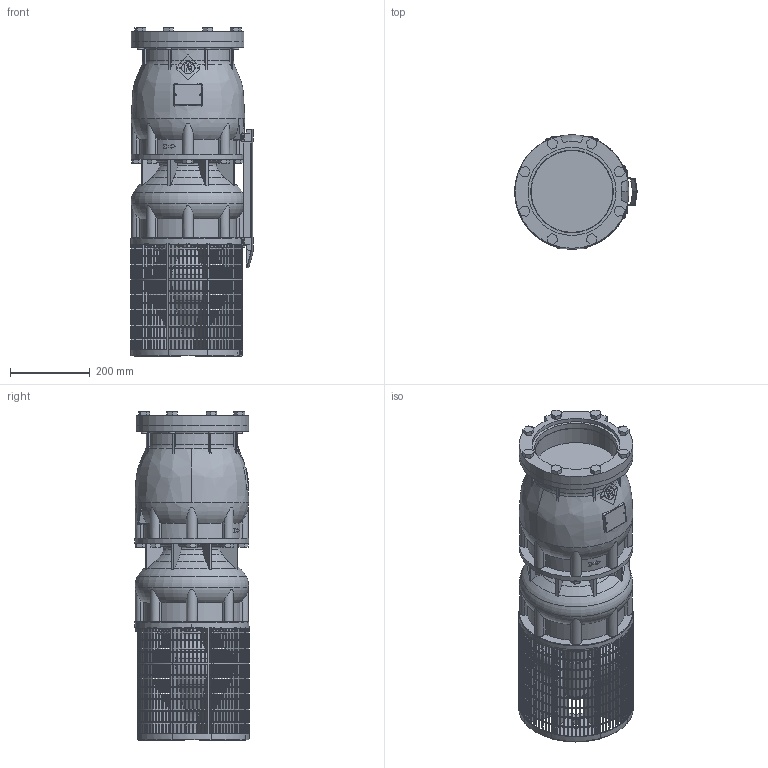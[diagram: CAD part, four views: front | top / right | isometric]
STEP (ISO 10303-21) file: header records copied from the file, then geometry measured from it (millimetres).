
FILE_DESCRIPTION(/* description */ ('-'),/* implementation_level */ '2;1');
FILE_NAME(/* name */ 'VSI344-1-1B_WF_M8-50_DLE',/* time_stamp */ '2025-01-15T17:48:30+01:00',/* author */ ('Simonelli M.'),/* organization */ ('Franklin Electric Srl'),/* preprocessor_version */ 'ST-DEVELOPER v18.102',/* originating_system */ 'Solid Edge',/* authorisation */ 'Unknown');
FILE_SCHEMA (('AUTOMOTIVE_DESIGN {1 0 10303 214 3 1 1}'));
Products named in the file (12): VSI344-1-1B_WF_M8-50_DLE; VSI344-454_testata; VSI344-454_supporto; VSI344-454_filtro_A; VSI344-454_filtro_B; VSI344-454_terminale_top_copricavo_basso; VSI344-454_terminale_bottom_copricavo_basso; LOW 344-1-; VSI344_diffusore; M5X8_UNI7687; VSI184-254_giunto_10×8; VSI344-454_flangia_testata
Assembly tree (20 placements, depth 2):
  VSI344-1-1B_WF_M8-50_DLE
    VSI344-454_testata
    VSI344-454_supporto
    VSI344-454_filtro_A
    VSI344-454_filtro_B
    VSI344-454_terminale_top_copricavo_basso
    VSI344-454_terminale_bottom_copricavo_basso
    LOW 344-1-
    VSI344_diffusore
    M5X8_UNI7687  x10
    VSI184-254_giunto_10×8
    VSI344-454_flangia_testata
Bounding box: 306.94 x 286 x 824 mm (x, y, z)
Volume: 27938388 mm3; surface area: 1924554.7 mm2
Topology: 85 solids, 85 shells, 3910 faces, 11024 edges, 7322 vertices
Faces by surface type: plane 3206, cylinder 478, torus 132, cone 69, bspline 15, sphere 10
Full cylindrical faces by diameter (mm): 5 x10, 16 x8, 35 x1, 65 x1, 69 x1, 150 x1, 207 x1, 220.5 x1, 285 x1
Entity records: 128054 total; most frequent: CARTESIAN_POINT 28628, ORIENTED_EDGE 20792, DIRECTION 19888, EDGE_CURVE 10396, VERTEX_POINT 6933, AXIS2_PLACEMENT_3D 6715, LINE 6458, VECTOR 6458
